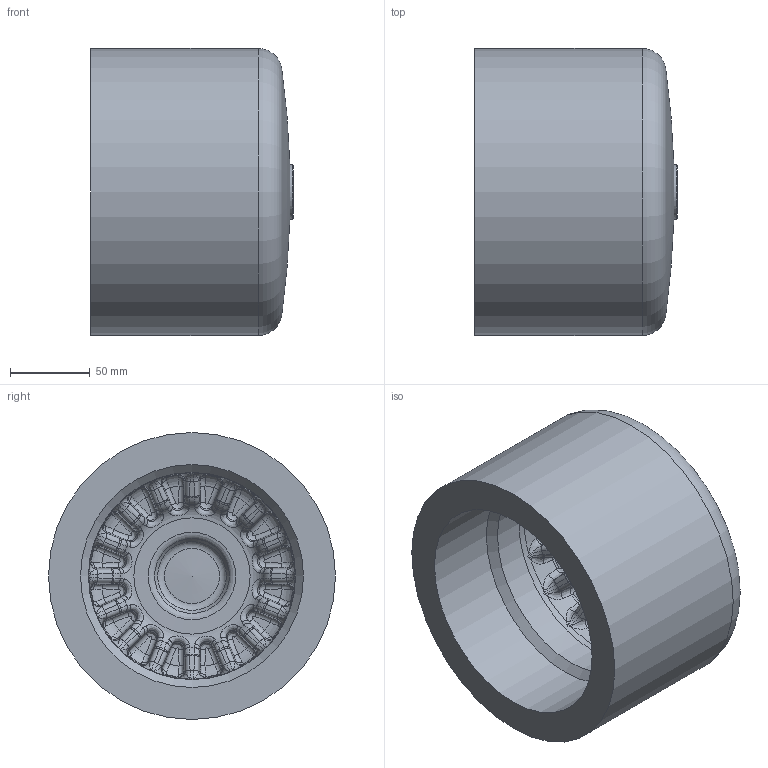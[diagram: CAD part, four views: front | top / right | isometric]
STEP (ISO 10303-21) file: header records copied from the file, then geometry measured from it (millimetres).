
FILE_DESCRIPTION(/* description */ ('Unknown'),/* implementation_level */ '2;1');
FILE_NAME(/* name */ 'CAP180G',/* time_stamp */ '2022-04-02T10:55:17+02:00',/* author */ ('Unknown'),/* organization */ ('Unknown'),/* preprocessor_version */ 'ST-DEVELOPER v18.1',/* originating_system */ 'Solid Edge',/* authorisation */ 'Unknown');
FILE_SCHEMA (('AUTOMOTIVE_DESIGN {1 0 10303 214 3 1 1}'));
Length unit declared in the file: millimetre
Products named in the file (1): CAP180G
Bounding box: 127 x 180 x 180 mm (x, y, z)
Volume: 1762169 mm3; surface area: 158241.3 mm2
Topology: 1 solids, 1 shells, 578 faces, 1401 edges, 793 vertices
Faces by surface type: bspline 336, torus 86, plane 50, cylinder 50, cone 38, sphere 18
Full cylindrical faces by diameter (mm): 139.8 x1, 180 x1
Entity records: 21274 total; most frequent: CARTESIAN_POINT 10516, ORIENTED_EDGE 2688, DIRECTION 1670, EDGE_CURVE 1344, AXIS2_PLACEMENT_3D 787, VERTEX_POINT 785, B_SPLINE_CURVE_WITH_KNOTS 704, FACE_BOUND 595
